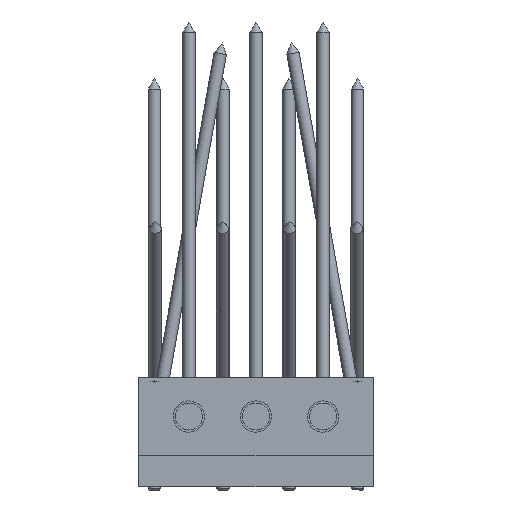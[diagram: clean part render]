
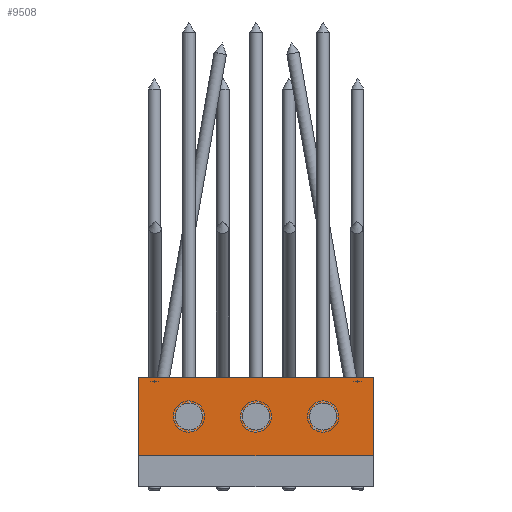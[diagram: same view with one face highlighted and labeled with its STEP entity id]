
A CAD part, front view. The second image highlights one B-rep face of the part: STEP entity #9508.
In plain terms, the highlighted planar face has unit normal (0, -1, 0) as drawn and (0, 0, 1) by its records, which use the part's own axes.
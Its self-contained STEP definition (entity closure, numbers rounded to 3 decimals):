
#1094=CIRCLE('',#11217,8.647);
#1095=CIRCLE('',#11218,8.647);
#1096=CIRCLE('',#11219,8.647);
#2555=ORIENTED_EDGE('',*,*,#4096,.F.);
#2556=ORIENTED_EDGE('',*,*,#4097,.F.);
#2557=ORIENTED_EDGE('',*,*,#4098,.F.);
#2558=ORIENTED_EDGE('',*,*,#4099,.F.);
#2559=ORIENTED_EDGE('',*,*,#4095,.F.);
#2560=ORIENTED_EDGE('',*,*,#4100,.T.);
#2561=ORIENTED_EDGE('',*,*,#4083,.T.);
#4083=EDGE_CURVE('',#5052,#5050,#5618,.T.);
#4095=EDGE_CURVE('',#5061,#5060,#5626,.T.);
#4096=EDGE_CURVE('',#5062,#5062,#1094,.T.);
#4097=EDGE_CURVE('',#5063,#5063,#1095,.T.);
#4098=EDGE_CURVE('',#5064,#5064,#1096,.T.);
#4099=EDGE_CURVE('',#5060,#5050,#5627,.T.);
#4100=EDGE_CURVE('',#5061,#5052,#5628,.T.);
#5050=VERTEX_POINT('',#16515);
#5052=VERTEX_POINT('',#16518);
#5060=VERTEX_POINT('',#16538);
#5061=VERTEX_POINT('',#16540);
#5062=VERTEX_POINT('',#16544);
#5063=VERTEX_POINT('',#16546);
#5064=VERTEX_POINT('',#16548);
#5618=LINE('',#16517,#5942);
#5626=LINE('',#16541,#5950);
#5627=LINE('',#16549,#5951);
#5628=LINE('',#16550,#5952);
#5942=VECTOR('',#13368,1000.);
#5950=VECTOR('',#13388,1000.);
#5951=VECTOR('',#13397,1000.);
#5952=VECTOR('',#13398,1000.);
#6893=EDGE_LOOP('',(#2555));
#6894=EDGE_LOOP('',(#2556));
#6895=EDGE_LOOP('',(#2557));
#6896=EDGE_LOOP('',(#2558,#2559,#2560,#2561));
#8311=FACE_BOUND('',#6893,.T.);
#8312=FACE_BOUND('',#6894,.T.);
#8313=FACE_BOUND('',#6895,.T.);
#8314=FACE_BOUND('',#6896,.T.);
#9064=PLANE('',#11216);
#9508=ADVANCED_FACE('',(#8311,#8312,#8313,#8314),#9064,.T.);
#11216=AXIS2_PLACEMENT_3D('',#16542,#13389,#13390);
#11217=AXIS2_PLACEMENT_3D('',#16543,#13391,#13392);
#11218=AXIS2_PLACEMENT_3D('',#16545,#13393,#13394);
#11219=AXIS2_PLACEMENT_3D('',#16547,#13395,#13396);
#13368=DIRECTION('',(0.,-1.,0.));
#13388=DIRECTION('',(0.,-1.,0.));
#13389=DIRECTION('',(0.,0.,1.));
#13390=DIRECTION('',(1.,0.,0.));
#13391=DIRECTION('',(0.,0.,1.));
#13392=DIRECTION('',(1.,0.,0.));
#13393=DIRECTION('',(0.,0.,1.));
#13394=DIRECTION('',(1.,0.,0.));
#13395=DIRECTION('',(0.,0.,1.));
#13396=DIRECTION('',(1.,0.,0.));
#13397=DIRECTION('',(-1.,0.,0.));
#13398=DIRECTION('',(-1.,0.,0.));
#16515=CARTESIAN_POINT('',(0.,0.,50.));
#16517=CARTESIAN_POINT('',(0.,150.,50.));
#16518=CARTESIAN_POINT('',(0.,150.,50.));
#16538=CARTESIAN_POINT('',(50.,0.,50.));
#16540=CARTESIAN_POINT('',(50.,150.,50.));
#16541=CARTESIAN_POINT('',(50.,150.,50.));
#16542=CARTESIAN_POINT('',(50.,150.,50.));
#16543=CARTESIAN_POINT('',(25.,32.,50.));
#16544=CARTESIAN_POINT('',(33.647,32.,50.));
#16545=CARTESIAN_POINT('',(25.,75.,50.));
#16546=CARTESIAN_POINT('',(33.647,75.,50.));
#16547=CARTESIAN_POINT('',(25.,118.,50.));
#16548=CARTESIAN_POINT('',(33.647,118.,50.));
#16549=CARTESIAN_POINT('',(50.,0.,50.));
#16550=CARTESIAN_POINT('',(50.,150.,50.));
